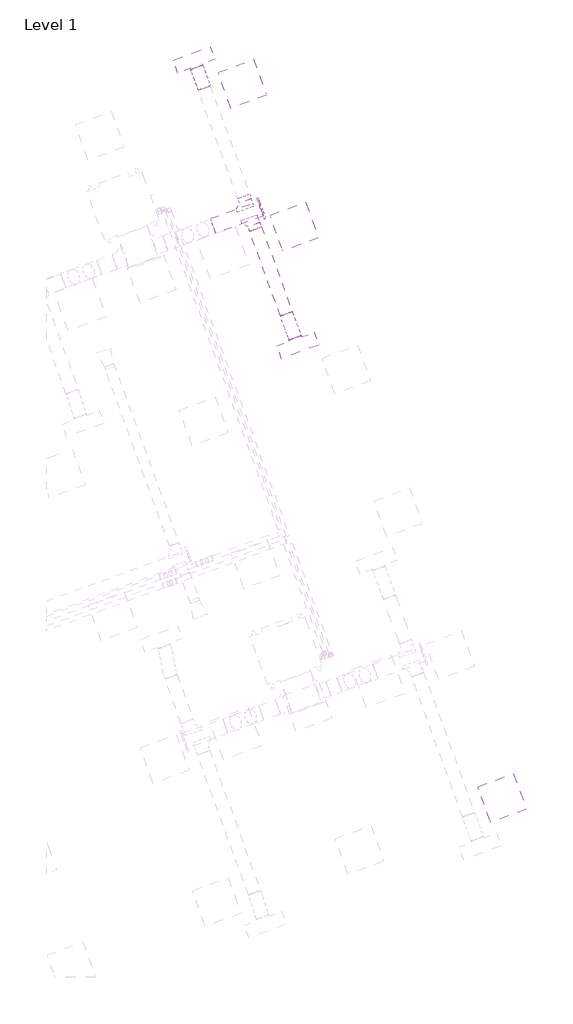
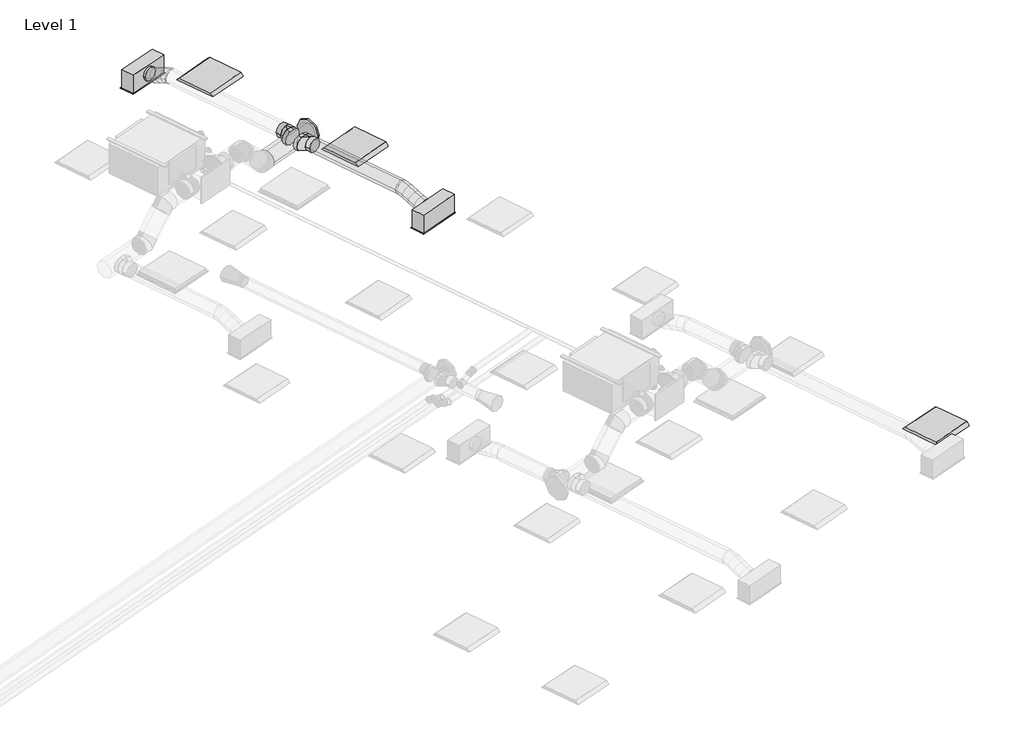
# One storey, part 30 of 30: 4 duct segments, 3 duct fittings, 3 light fixtures, 2 air terminals.
"""IFC4 building model written with IfcOpenShell, lengths in millimetres."""

from ifc_helpers import new_model, si_unit, point, frame, frame_2d, origin, place, context, project, spatial, circle_curve, ellipse_curve, trimmed, segment, composite_curve, outline, extrude, transform, mapped, element, save
from ifc_brep_helpers import plane_surface, cylinder_surface, advanced_brep
from components import supply_diffuser_with_plenum_linear_slot_hosted_2b730595, dw144_round_blank_end_standard_e3d0b58b, dw144_round_shoe_branch_slip_joint1_standard_2_15a2edd8, light_fixture_1c7c1157, light_fixture_b730b5ca

model = new_model("IFC4")

# Units and contexts
model_context = context("Model", 3, world=origin())
ifc_project = project(units=[si_unit("LENGTHUNIT", "METRE", prefix="MILLI")], contexts=[model_context])

# Site, building, storey
site = spatial("IfcSite", under=ifc_project)
building = spatial("IfcBuilding", under=site)
storey = spatial("IfcBuildingStorey", under=building, Name="Level 1", Elevation=3900.0)

# Air terminals
placement = place(None, origin())
supply_diffuser_with_plenum_linear_slot_hosted_shape = supply_diffuser_with_plenum_linear_slot_hosted_2b730595(model_context)
element("IfcAirTerminal", 1, ObjectType="Supply Diffuser with Plenum - Linear Slot - Hosted : 24\" x 8\"-200 In Inlet  4-Slot", at=placement, inside=storey, context=model_context, shape_type="MappedRepresentation", body=[
    mapped(supply_diffuser_with_plenum_linear_slot_hosted_shape, transform((59424.7616276, 24563.7241257, 6700.0), x_axis=(-0.9396926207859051, -0.3420201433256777, 0.0), y_axis=(-0.3420201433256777, 0.9396926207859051, 0.0), z_axis=(0.0, 0.0, -1.0))),
])
element("IfcAirTerminal", 2, ObjectType="Supply Diffuser with Plenum - Linear Slot - Hosted : 24\" x 8\"-200 In Inlet  4-Slot", at=placement, inside=storey, context=model_context, shape_type="MappedRepresentation", body=[
    mapped(supply_diffuser_with_plenum_linear_slot_hosted_shape, transform((61066.4583156, 20053.199546, 6700.0), x_axis=(0.939692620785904, 0.342020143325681, 0.0), y_axis=(0.342020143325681, -0.939692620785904, 0.0), z_axis=(0.0, 0.0, -1.0))),
])

# Duct fittings
dw144_round_blank_end_standard_shape = dw144_round_blank_end_standard_e3d0b58b(model_context)
element("IfcDuctFitting", 3, ObjectType="DW144 Round Blank End : Standard", at=placement, inside=storey, context=model_context, shape_type="MappedRepresentation", body=[
    mapped(dw144_round_blank_end_standard_shape, transform((60480.0687344, 22212.6690304, 6972.2088531), x_axis=(0.9396926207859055, 0.3420201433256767, 0.0), y_axis=(-0.3420201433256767, 0.9396926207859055, 0.0), z_axis=(0.0, 0.0, 1.0))),
])
dw144_round_shoe_branch_slip_joint1_standard_2_shape = dw144_round_shoe_branch_slip_joint1_standard_2_15a2edd8(model_context)
element("IfcDuctFitting", 4, ObjectType="DW144 Round Shoe Branch - Slip Joint1 : Standard 2", at=placement, inside=storey, context=model_context, shape_type="MappedRepresentation", body=[
    mapped(dw144_round_shoe_branch_slip_joint1_standard_2_shape, transform((60261.0711331, 22265.9826437, 6972.2088531), x_axis=(-0.3420201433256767, 0.9396926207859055, 0.0), y_axis=(0.9396926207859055, 0.3420201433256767, 0.0), z_axis=(0.0, 0.0, -1.0))),
])
element("IfcDuctFitting", 5, ObjectType="DW144 Round Shoe Branch - Slip Joint1 : Standard 2", at=placement, inside=storey, context=model_context, shape_type="MappedRepresentation", body=[
    mapped(dw144_round_shoe_branch_slip_joint1_standard_2_shape, transform((60346.5761689, 22031.0594885, 6972.2088531), x_axis=(0.3420201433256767, -0.9396926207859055, 0.0), y_axis=(0.9396926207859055, 0.3420201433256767, 0.0), z_axis=(0.0, 0.0, 1.0))),
])

# Duct segments
element("IfcDuctSegment", 6, ObjectType="DW144 Segmented Bend / Shoe Branch", at=placement, inside=storey, context=model_context, shape_type="SweptSolid", body=[
    extrude(outline(composite_curve([segment(trimmed(circle_curve(frame_2d((0.0, -125.0)), 125.0), [point((-125.0, -125.0))], [point((0.0, 0.0))], False, "CARTESIAN"), True, "CONTINUOUS"), segment(trimmed(circle_curve(frame_2d((0.0, -125.0)), 125.0), [point((0.0, 0.0))], [point((125.0, -125.0))], False, "CARTESIAN"), True, "CONTINUOUS"), segment(trimmed(circle_curve(frame_2d((0.0, -125.0)), 125.0), [point((125.0, -125.0))], [point((0.0, -250.0))], False, "CARTESIAN"), True, "CONTINUOUS"), segment(trimmed(circle_curve(frame_2d((0.0, -125.0)), 125.0), [point((0.0, -250.0))], [point((-125.0, -125.0))], False, "CARTESIAN"), True, "CONTINUOUS")], self_intersect=False)), frame((59729.4269771, 21939.4577742, 6847.2088531), z_axis=(0.9396926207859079, 0.3420201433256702, 0.0), x_axis=(0.3420201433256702, -0.9396926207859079, 0.0)), (0.0, 0.0, 1.0), 798.8162732),
])
element("IfcDuctSegment", 7, ObjectType="DW144 Segmented Bend / Shoe Branch", at=placement, inside=storey, context=model_context, shape_type="SweptSolid", body=[
    extrude(outline(composite_curve([segment(trimmed(circle_curve(frame_2d((0.0, -100.0)), 100.0), [point((-99.9999999, -100.0))], [point((0.0, 0.0))], False, "CARTESIAN"), True, "CONTINUOUS"), segment(trimmed(circle_curve(frame_2d((0.0, -100.0)), 100.0), [point((0.0, 0.0))], [point((100.0, -100.0))], False, "CARTESIAN"), True, "CONTINUOUS"), segment(trimmed(circle_curve(frame_2d((0.0, -100.0)), 100.0), [point((100.0, -100.0))], [point((0.0, -200.0))], False, "CARTESIAN"), True, "CONTINUOUS"), segment(trimmed(circle_curve(frame_2d((0.0, -100.0)), 100.0), [point((0.0, -200.0))], [point((-99.9999999, -100.0))], False, "CARTESIAN"), True, "CONTINUOUS")], self_intersect=False)), frame((60884.6068274, 20552.8324034, 6872.2088531), z_axis=(-0.3420201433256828, 0.9396926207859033, 0.0), x_axis=(0.9396926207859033, 0.3420201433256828, 0.0)), (0.0, 0.0, 1.0), 1423.0964067),
])
element("IfcDuctSegment", 8, ObjectType="Flex - Round", at=placement, inside=storey, context=model_context, shape_type="AdvancedBrep", body=[
    advanced_brep(
    [(59494.3812221, 24080.0654218, 6972.2088531), (59588.3504842, 24114.2674361, 6872.2088531), (59682.3197463, 24148.4694505, 6972.2088531), (59588.3504842, 24114.2674361, 7072.2088531), (59487.5004936, 24098.970068, 6972.2088531), (59585.9217049, 24120.9404524, 6872.2088531), (59675.4390178, 24167.3740967, 6972.2088531), (59577.0178065, 24145.4037123, 7072.2088531), (59374.2289237, 24410.1811486, 6854.4), (59468.1981858, 24444.3831629, 6954.4), (59562.1674479, 24478.5851772, 6854.4), (59468.1981858, 24444.3831629, 6754.4), (59463.7266331, 24164.2882131, 6953.8012198), (59569.4536569, 24166.1860426, 6859.4579669), (59651.6651572, 24232.6922417, 6953.8012198), (59545.9381335, 24230.7944122, 7048.1444727), (59434.3050729, 24245.1232852, 6913.3044266), (59542.8419968, 24239.3009778, 6822.8288116), (59622.2435971, 24313.5273139, 6913.3044266), (59513.7066733, 24319.3496213, 7003.7800415), (59404.8835128, 24325.9583573, 6872.8076333), (59510.6105366, 24327.8561869, 6778.4643804), (59592.822037, 24394.362386, 6872.8076333), (59487.0950132, 24392.4645564, 6967.1508862), (59381.1096523, 24391.2765023, 6854.4), (59479.5308635, 24413.2468867, 6754.4), (59569.0481764, 24459.680531, 6854.4), (59470.6269651, 24437.7101466, 6954.4)],
    [
        (0, 1, circle_curve(frame((59588.3504842, 24114.2674361, 6972.2088531), z_axis=(0.3420201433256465, -0.9396926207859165, 0.0), x_axis=(-0.9396926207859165, -0.3420201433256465, 0.0)), 100.0)),
        (1, 2, circle_curve(frame((59588.3504842, 24114.2674361, 6972.2088531), z_axis=(0.3420201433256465, -0.9396926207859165, 0.0), x_axis=(-0.9396926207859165, -0.3420201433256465, 0.0)), 100.0)),
        (2, 3, circle_curve(frame((59588.3504842, 24114.2674361, 6972.2088531), z_axis=(0.3420201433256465, -0.9396926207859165, 0.0), x_axis=(-0.9396926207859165, -0.3420201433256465, 0.0)), 100.0)),
        (3, 0, circle_curve(frame((59588.3504842, 24114.2674361, 6972.2088531), z_axis=(0.3420201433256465, -0.9396926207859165, 0.0), x_axis=(-0.9396926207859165, -0.3420201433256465, 0.0)), 100.0)),
        (0, 4),
        (4, 5, ellipse_curve(frame((59581.4697557, 24133.1720824, 6972.2088531), z_axis=(0.33915898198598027, -0.931831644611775, 0.12907738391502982), x_axis=(0.044147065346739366, -0.12129306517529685, -0.9916345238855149)), 100.8436048, 100.0)),
        (5, 1),
        (5, 6, ellipse_curve(frame((59581.4697557, 24133.1720824, 6972.2088531), z_axis=(0.33915898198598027, -0.931831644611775, 0.12907738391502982), x_axis=(0.044147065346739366, -0.12129306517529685, -0.9916345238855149)), 100.8436048, 100.0)),
        (6, 2),
        (6, 7, ellipse_curve(frame((59581.4697557, 24133.1720824, 6972.2088531), z_axis=(0.33915898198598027, -0.931831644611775, 0.12907738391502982), x_axis=(0.044147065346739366, -0.12129306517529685, -0.9916345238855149)), 100.8436048, 100.0)),
        (7, 3),
        (7, 4, ellipse_curve(frame((59581.4697557, 24133.1720824, 6972.2088531), z_axis=(0.33915898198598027, -0.931831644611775, 0.12907738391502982), x_axis=(0.044147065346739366, -0.12129306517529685, -0.9916345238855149)), 100.8436048, 100.0)),
        (8, 9, circle_curve(frame((59468.1981858, 24444.3831629, 6854.4), z_axis=(-0.34202014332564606, 0.9396926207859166, 0.0), x_axis=(-0.9396926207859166, -0.34202014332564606, 0.0)), 100.0)),
        (9, 10, circle_curve(frame((59468.1981858, 24444.3831629, 6854.4), z_axis=(-0.34202014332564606, 0.9396926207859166, 0.0), x_axis=(-0.9396926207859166, -0.34202014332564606, 0.0)), 100.0)),
        (10, 11, circle_curve(frame((59468.1981858, 24444.3831629, 6854.4), z_axis=(-0.34202014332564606, 0.9396926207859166, 0.0), x_axis=(-0.9396926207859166, -0.34202014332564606, 0.0)), 100.0)),
        (11, 8, circle_curve(frame((59468.1981858, 24444.3831629, 6854.4), z_axis=(-0.34202014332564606, 0.9396926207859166, 0.0), x_axis=(-0.9396926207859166, -0.34202014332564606, 0.0)), 100.0)),
        (4, 12),
        (12, 13, ellipse_curve(frame((59557.6958952, 24198.4902274, 6953.8012198), z_axis=(0.32135080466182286, -0.8829040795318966, 0.34236537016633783), x_axis=(0.11709585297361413, -0.3217182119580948, -0.9395668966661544)), 100.411427, 100.0)),
        (13, 5),
        (13, 14, ellipse_curve(frame((59557.6958952, 24198.4902274, 6953.8012198), z_axis=(0.32135080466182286, -0.8829040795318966, 0.34236537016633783), x_axis=(0.11709585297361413, -0.3217182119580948, -0.9395668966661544)), 100.411427, 100.0)),
        (14, 6),
        (14, 15, ellipse_curve(frame((59557.6958952, 24198.4902274, 6953.8012198), z_axis=(0.32135080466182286, -0.8829040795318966, 0.34236537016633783), x_axis=(0.11709585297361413, -0.3217182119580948, -0.9395668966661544)), 100.411427, 100.0)),
        (15, 7),
        (15, 12, ellipse_curve(frame((59557.6958952, 24198.4902274, 6953.8012198), z_axis=(0.32135080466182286, -0.8829040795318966, 0.34236537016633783), x_axis=(0.11709585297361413, -0.3217182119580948, -0.9395668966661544)), 100.411427, 100.0)),
        (12, 16),
        (16, 17, circle_curve(frame((59528.274335, 24279.3252995, 6913.3044266), z_axis=(0.30944482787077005, -0.8501926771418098, 0.4259299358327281), x_axis=(-0.9396926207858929, -0.34202014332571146, 0.0)), 100.0)),
        (17, 13),
        (17, 18, circle_curve(frame((59528.274335, 24279.3252995, 6913.3044266), z_axis=(0.30944482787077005, -0.8501926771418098, 0.4259299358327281), x_axis=(-0.9396926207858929, -0.34202014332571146, 0.0)), 100.0)),
        (18, 14),
        (18, 19, circle_curve(frame((59528.274335, 24279.3252995, 6913.3044266), z_axis=(0.30944482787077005, -0.8501926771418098, 0.4259299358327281), x_axis=(-0.9396926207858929, -0.34202014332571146, 0.0)), 100.0)),
        (19, 15),
        (19, 16, circle_curve(frame((59528.274335, 24279.3252995, 6913.3044266), z_axis=(0.30944482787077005, -0.8501926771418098, 0.4259299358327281), x_axis=(-0.9396926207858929, -0.34202014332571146, 0.0)), 100.0)),
        (16, 20),
        (20, 21, ellipse_curve(frame((59498.8527749, 24360.1603716, 6872.8076333), z_axis=(0.3213508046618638, -0.8829040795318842, 0.3423653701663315), x_axis=(-0.11709585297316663, 0.3217182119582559, 0.9395668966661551)), 100.411427, 100.0)),
        (21, 17),
        (21, 22, ellipse_curve(frame((59498.8527749, 24360.1603716, 6872.8076333), z_axis=(0.3213508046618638, -0.8829040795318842, 0.3423653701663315), x_axis=(-0.11709585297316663, 0.3217182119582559, 0.9395668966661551)), 100.411427, 100.0)),
        (22, 18),
        (22, 23, ellipse_curve(frame((59498.8527749, 24360.1603716, 6872.8076333), z_axis=(0.3213508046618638, -0.8829040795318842, 0.3423653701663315), x_axis=(-0.11709585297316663, 0.3217182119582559, 0.9395668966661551)), 100.411427, 100.0)),
        (23, 19),
        (23, 20, ellipse_curve(frame((59498.8527749, 24360.1603716, 6872.8076333), z_axis=(0.3213508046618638, -0.8829040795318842, 0.3423653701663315), x_axis=(-0.11709585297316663, 0.3217182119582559, 0.9395668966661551)), 100.411427, 100.0)),
        (20, 24),
        (24, 25, ellipse_curve(frame((59475.0789143, 24425.4785167, 6854.4), z_axis=(0.33915898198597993, -0.9318316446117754, 0.1290773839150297), x_axis=(-0.04414706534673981, 0.12129306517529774, 0.9916345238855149)), 100.8436048, 100.0)),
        (25, 21),
        (25, 26, ellipse_curve(frame((59475.0789143, 24425.4785167, 6854.4), z_axis=(0.33915898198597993, -0.9318316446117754, 0.1290773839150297), x_axis=(-0.04414706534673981, 0.12129306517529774, 0.9916345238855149)), 100.8436048, 100.0)),
        (26, 22),
        (26, 27, ellipse_curve(frame((59475.0789143, 24425.4785167, 6854.4), z_axis=(0.33915898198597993, -0.9318316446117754, 0.1290773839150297), x_axis=(-0.04414706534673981, 0.12129306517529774, 0.9916345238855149)), 100.8436048, 100.0)),
        (27, 23),
        (27, 24, ellipse_curve(frame((59475.0789143, 24425.4785167, 6854.4), z_axis=(0.33915898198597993, -0.9318316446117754, 0.1290773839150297), x_axis=(-0.04414706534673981, 0.12129306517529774, 0.9916345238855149)), 100.8436048, 100.0)),
        (24, 8),
        (11, 25),
        (10, 26),
        (9, 27),
    ],
    [
        plane_surface(frame((59588.3504842, 24114.2674361, 7072.2088531), z_axis=(0.3420201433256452, -0.939692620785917, 0.0), x_axis=(0.939692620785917, 0.3420201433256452, 0.0))),
        cylinder_surface(frame((59588.3504842, 24114.2674361, 6972.2088531), z_axis=(0.3420201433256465, -0.9396926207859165, 0.0), x_axis=(-0.9396926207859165, -0.3420201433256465, 0.0)), 100.0),
        plane_surface(frame((59468.1981858, 24444.3831629, 6954.4), z_axis=(-0.3420201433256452, 0.939692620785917, 0.0), x_axis=(0.939692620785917, 0.3420201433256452, 0.0))),
        cylinder_surface(frame((59581.4697557, 24133.1720824, 6972.2088531), z_axis=(0.3306233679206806, -0.9083802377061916, 0.2559951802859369), x_axis=(-0.9396926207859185, -0.342020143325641, 0.0)), 100.0),
        cylinder_surface(frame((59557.6958952, 24198.4902274, 6953.8012198), z_axis=(0.30944482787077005, -0.8501926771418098, 0.4259299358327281), x_axis=(-0.9396926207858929, -0.34202014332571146, 0.0)), 100.0),
        cylinder_surface(frame((59528.274335, 24279.3252995, 6913.3044266), z_axis=(0.30944482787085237, -0.8501926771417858, 0.42592993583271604), x_axis=(-0.9396926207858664, -0.3420201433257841, 0.0)), 100.0),
        cylinder_surface(frame((59498.8527749, 24360.1603716, 6872.8076333), z_axis=(0.3306233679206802, -0.9083802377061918, 0.25599518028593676), x_axis=(-0.9396926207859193, -0.34202014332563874, 0.0)), 100.0),
        cylinder_surface(frame((59475.0789143, 24425.4785167, 6854.4), z_axis=(0.34202014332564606, -0.9396926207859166, 0.0), x_axis=(-0.9396926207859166, -0.34202014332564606, 0.0)), 100.0),
    ],
    [
        (0, [[1, 2, 3, 4]]),
        (1, [[-1, 5, 6, 7]]),
        (1, [[-2, -7, 8, 9]]),
        (1, [[-3, -9, 10, 11]]),
        (1, [[-4, -11, 12, -5]]),
        (2, [[13, 14, 15, 16]]),
        (3, [[-6, 17, 18, 19]]),
        (3, [[-8, -19, 20, 21]]),
        (3, [[-10, -21, 22, 23]]),
        (3, [[-12, -23, 24, -17]]),
        (4, [[-18, 25, 26, 27]]),
        (4, [[-20, -27, 28, 29]]),
        (4, [[-22, -29, 30, 31]]),
        (4, [[-24, -31, 32, -25]]),
        (5, [[-26, 33, 34, 35]]),
        (5, [[-28, -35, 36, 37]]),
        (5, [[-30, -37, 38, 39]]),
        (5, [[-32, -39, 40, -33]]),
        (6, [[-34, 41, 42, 43]]),
        (6, [[-36, -43, 44, 45]]),
        (6, [[-38, -45, 46, 47]]),
        (6, [[-40, -47, 48, -41]]),
        (7, [[-42, 49, -16, 50]]),
        (7, [[-44, -50, -15, 51]]),
        (7, [[-46, -51, -14, 52]]),
        (7, [[-48, -52, -13, -49]]),
    ],
),
])
element("IfcDuctSegment", 9, ObjectType="Flex - Round", at=placement, inside=storey, context=model_context, shape_type="AdvancedBrep", body=[
    advanced_brep(
    [(60978.5760895, 20587.0344177, 6972.2088531), (60884.6068274, 20552.8324034, 6872.2088531), (60790.6375654, 20518.630389, 6972.2088531), (60884.6068274, 20552.8324034, 7072.2088531), (60984.6073828, 20570.4635756, 6972.2088531), (60886.98199, 20546.306698, 6872.2088531), (60796.6688586, 20502.0595469, 6972.2088531), (60894.2942515, 20526.2164246, 7072.2088531), (61116.9910195, 20206.7425231, 6854.4), (61023.0217574, 20172.5405088, 6954.4), (60929.0524953, 20138.3384945, 6854.4), (61023.0217574, 20172.5405088, 6754.4), (61013.7184591, 20490.4815508, 6953.8012198), (60909.6174608, 20484.1162529, 6857.8959008), (60825.7799349, 20422.0775221, 6953.8012198), (60929.8809332, 20428.44282, 7049.7065388), (61047.7835545, 20396.8884704, 6913.3044266), (60940.9320403, 20398.0801528, 6820.6689376), (60859.8450303, 20328.4844418, 6913.3044266), (60966.6965445, 20327.2927594, 7005.9399155), (61081.8486499, 20303.2953901, 6872.8076333), (60977.7476516, 20296.9300922, 6776.9023143), (60893.9101257, 20234.8913614, 6872.8076333), (60998.011124, 20241.2566593, 6968.7129523), (61110.9597262, 20223.3133653, 6854.4), (61013.3343333, 20199.1564876, 6754.4), (60923.021202, 20154.9093366, 6854.4), (61020.6465948, 20179.0662142, 6954.4)],
    [
        (0, 1, circle_curve(frame((60884.6068274, 20552.8324034, 6972.2088531), z_axis=(-0.34202014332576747, 0.9396926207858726, 0.0), x_axis=(0.9396926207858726, 0.34202014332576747, 0.0)), 100.0)),
        (1, 2, circle_curve(frame((60884.6068274, 20552.8324034, 6972.2088531), z_axis=(-0.34202014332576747, 0.9396926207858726, 0.0), x_axis=(0.9396926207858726, 0.34202014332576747, 0.0)), 100.0)),
        (2, 3, circle_curve(frame((60884.6068274, 20552.8324034, 6972.2088531), z_axis=(-0.34202014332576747, 0.9396926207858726, 0.0), x_axis=(0.9396926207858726, 0.34202014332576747, 0.0)), 100.0)),
        (3, 0, circle_curve(frame((60884.6068274, 20552.8324034, 6972.2088531), z_axis=(-0.34202014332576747, 0.9396926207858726, 0.0), x_axis=(0.9396926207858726, 0.34202014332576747, 0.0)), 100.0)),
        (0, 4),
        (4, 5, ellipse_curve(frame((60890.6381207, 20536.2615613, 6972.2088531), z_axis=(-0.3400825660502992, 0.9343691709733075, 0.10629252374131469), x_axis=(-0.03635418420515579, 0.09988230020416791, -0.9943349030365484)), 100.5697373, 100.0)),
        (5, 1),
        (5, 6, ellipse_curve(frame((60890.6381207, 20536.2615613, 6972.2088531), z_axis=(-0.3400825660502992, 0.9343691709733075, 0.10629252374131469), x_axis=(-0.03635418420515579, 0.09988230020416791, -0.9943349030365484)), 100.5697373, 100.0)),
        (6, 2),
        (6, 7, ellipse_curve(frame((60890.6381207, 20536.2615613, 6972.2088531), z_axis=(-0.3400825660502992, 0.9343691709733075, 0.10629252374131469), x_axis=(-0.03635418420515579, 0.09988230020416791, -0.9943349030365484)), 100.5697373, 100.0)),
        (7, 3),
        (7, 4, ellipse_curve(frame((60890.6381207, 20536.2615613, 6972.2088531), z_axis=(-0.3400825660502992, 0.9343691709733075, 0.10629252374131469), x_axis=(-0.03635418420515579, 0.09988230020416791, -0.9943349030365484)), 100.5697373, 100.0)),
        (8, 9, circle_curve(frame((61023.0217574, 20172.5405088, 6854.4), z_axis=(0.3420201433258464, -0.9396926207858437, 0.0), x_axis=(0.9396926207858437, 0.3420201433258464, 0.0)), 100.0)),
        (9, 10, circle_curve(frame((61023.0217574, 20172.5405088, 6854.4), z_axis=(0.3420201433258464, -0.9396926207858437, 0.0), x_axis=(0.9396926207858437, 0.3420201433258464, 0.0)), 100.0)),
        (10, 11, circle_curve(frame((61023.0217574, 20172.5405088, 6854.4), z_axis=(0.3420201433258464, -0.9396926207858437, 0.0), x_axis=(0.9396926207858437, 0.3420201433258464, 0.0)), 100.0)),
        (11, 8, circle_curve(frame((61023.0217574, 20172.5405088, 6854.4), z_axis=(0.3420201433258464, -0.9396926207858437, 0.0), x_axis=(0.9396926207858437, 0.3420201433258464, 0.0)), 100.0)),
        (4, 12),
        (12, 13, ellipse_curve(frame((60919.749197, 20456.2795364, 6953.8012198), z_axis=(-0.32678640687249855, 0.8978382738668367, 0.2951221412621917), x_axis=(-0.10093771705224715, 0.277324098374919, -0.955459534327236)), 100.3761181, 100.0)),
        (13, 5),
        (13, 14, ellipse_curve(frame((60919.749197, 20456.2795364, 6953.8012198), z_axis=(-0.32678640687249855, 0.8978382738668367, 0.2951221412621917), x_axis=(-0.10093771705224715, 0.277324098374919, -0.955459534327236)), 100.3761181, 100.0)),
        (14, 6),
        (14, 15, ellipse_curve(frame((60919.749197, 20456.2795364, 6953.8012198), z_axis=(-0.32678640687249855, 0.8978382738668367, 0.2951221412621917), x_axis=(-0.10093771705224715, 0.277324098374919, -0.955459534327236)), 100.3761181, 100.0)),
        (15, 7),
        (15, 12, ellipse_curve(frame((60919.749197, 20456.2795364, 6953.8012198), z_axis=(-0.32678640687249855, 0.8978382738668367, 0.2951221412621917), x_axis=(-0.10093771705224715, 0.277324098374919, -0.955459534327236)), 100.3761181, 100.0)),
        (12, 16),
        (16, 17, circle_curve(frame((60953.8142924, 20362.6864561, 6913.3044266), z_axis=(-0.31683203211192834, 0.8704888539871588, 0.3766518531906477), x_axis=(0.9396926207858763, 0.3420201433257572, 0.0)), 100.0)),
        (17, 13),
        (17, 18, circle_curve(frame((60953.8142924, 20362.6864561, 6913.3044266), z_axis=(-0.31683203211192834, 0.8704888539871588, 0.3766518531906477), x_axis=(0.9396926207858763, 0.3420201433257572, 0.0)), 100.0)),
        (18, 14),
        (18, 19, circle_curve(frame((60953.8142924, 20362.6864561, 6913.3044266), z_axis=(-0.31683203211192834, 0.8704888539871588, 0.3766518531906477), x_axis=(0.9396926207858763, 0.3420201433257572, 0.0)), 100.0)),
        (19, 15),
        (19, 16, circle_curve(frame((60953.8142924, 20362.6864561, 6913.3044266), z_axis=(-0.31683203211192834, 0.8704888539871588, 0.3766518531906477), x_axis=(0.9396926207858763, 0.3420201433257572, 0.0)), 100.0)),
        (16, 20),
        (20, 21, ellipse_curve(frame((60987.8793878, 20269.0933757, 6872.8076333), z_axis=(-0.3267864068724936, 0.8978382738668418, 0.2951221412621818), x_axis=(0.10093771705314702, -0.27732409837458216, 0.9554595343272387)), 100.3761181, 100.0)),
        (21, 17),
        (21, 22, ellipse_curve(frame((60987.8793878, 20269.0933757, 6872.8076333), z_axis=(-0.3267864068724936, 0.8978382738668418, 0.2951221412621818), x_axis=(0.10093771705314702, -0.27732409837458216, 0.9554595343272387)), 100.3761181, 100.0)),
        (22, 18),
        (22, 23, ellipse_curve(frame((60987.8793878, 20269.0933757, 6872.8076333), z_axis=(-0.3267864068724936, 0.8978382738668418, 0.2951221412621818), x_axis=(0.10093771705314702, -0.27732409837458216, 0.9554595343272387)), 100.3761181, 100.0)),
        (23, 19),
        (23, 20, ellipse_curve(frame((60987.8793878, 20269.0933757, 6872.8076333), z_axis=(-0.3267864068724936, 0.8978382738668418, 0.2951221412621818), x_axis=(0.10093771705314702, -0.27732409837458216, 0.9554595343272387)), 100.3761181, 100.0)),
        (20, 24),
        (24, 25, ellipse_curve(frame((61016.9904641, 20189.1113509, 6854.4), z_axis=(-0.34008256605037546, 0.9343691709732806, 0.10629252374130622), x_axis=(0.03635418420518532, -0.09988230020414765, 0.9943349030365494)), 100.5697373, 100.0)),
        (25, 21),
        (25, 26, ellipse_curve(frame((61016.9904641, 20189.1113509, 6854.4), z_axis=(-0.34008256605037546, 0.9343691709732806, 0.10629252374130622), x_axis=(0.03635418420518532, -0.09988230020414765, 0.9943349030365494)), 100.5697373, 100.0)),
        (26, 22),
        (26, 27, ellipse_curve(frame((61016.9904641, 20189.1113509, 6854.4), z_axis=(-0.34008256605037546, 0.9343691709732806, 0.10629252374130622), x_axis=(0.03635418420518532, -0.09988230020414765, 0.9943349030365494)), 100.5697373, 100.0)),
        (27, 23),
        (27, 24, ellipse_curve(frame((61016.9904641, 20189.1113509, 6854.4), z_axis=(-0.34008256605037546, 0.9343691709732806, 0.10629252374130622), x_axis=(0.03635418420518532, -0.09988230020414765, 0.9943349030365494)), 100.5697373, 100.0)),
        (24, 8),
        (11, 25),
        (10, 26),
        (9, 27),
    ],
    [
        plane_surface(frame((60884.6068274, 20552.8324034, 6872.2088531), z_axis=(-0.3420201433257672, 0.9396926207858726, 0.0), x_axis=(0.9396926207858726, 0.3420201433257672, 0.0))),
        cylinder_surface(frame((60884.6068274, 20552.8324034, 6972.2088531), z_axis=(-0.34202014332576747, 0.9396926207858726, 0.0), x_axis=(0.9396926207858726, 0.34202014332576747, 0.0)), 100.0),
        plane_surface(frame((61023.0217574, 20172.5405088, 6754.4), z_axis=(0.3420201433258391, -0.9396926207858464, 0.0), x_axis=(0.9396926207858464, 0.3420201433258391, 0.0))),
        cylinder_surface(frame((60890.6381207, 20536.2615613, 6972.2088531), z_axis=(-0.33429178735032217, 0.9184591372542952, 0.21138073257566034), x_axis=(0.9396926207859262, 0.34202014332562, 0.0)), 100.0),
        cylinder_surface(frame((60919.749197, 20456.2795364, 6953.8012198), z_axis=(-0.31683203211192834, 0.8704888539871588, 0.3766518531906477), x_axis=(0.9396926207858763, 0.3420201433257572, 0.0)), 100.0),
        cylinder_surface(frame((60953.8142924, 20362.6864561, 6913.3044266), z_axis=(-0.31683203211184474, 0.8704888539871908, 0.3766518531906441), x_axis=(0.9396926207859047, 0.3420201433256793, 0.0)), 100.0),
        cylinder_surface(frame((60987.8793878, 20269.0933757, 6872.8076333), z_axis=(-0.3342917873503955, 0.9184591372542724, 0.21138073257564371), x_axis=(0.9396926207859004, 0.34202014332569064, 0.0)), 100.0),
        cylinder_surface(frame((61016.9904641, 20189.1113509, 6854.4), z_axis=(-0.3420201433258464, 0.9396926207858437, 0.0), x_axis=(0.9396926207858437, 0.3420201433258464, 0.0)), 100.0),
    ],
    [
        (0, [[1, 2, 3, 4]]),
        (1, [[-1, 5, 6, 7]]),
        (1, [[-2, -7, 8, 9]]),
        (1, [[-3, -9, 10, 11]]),
        (1, [[-4, -11, 12, -5]]),
        (2, [[13, 14, 15, 16]]),
        (3, [[-6, 17, 18, 19]]),
        (3, [[-8, -19, 20, 21]]),
        (3, [[-10, -21, 22, 23]]),
        (3, [[-12, -23, 24, -17]]),
        (4, [[-18, 25, 26, 27]]),
        (4, [[-20, -27, 28, 29]]),
        (4, [[-22, -29, 30, 31]]),
        (4, [[-24, -31, 32, -25]]),
        (5, [[-26, 33, 34, 35]]),
        (5, [[-28, -35, 36, 37]]),
        (5, [[-30, -37, 38, 39]]),
        (5, [[-32, -39, 40, -33]]),
        (6, [[-34, 41, 42, 43]]),
        (6, [[-36, -43, 44, 45]]),
        (6, [[-38, -45, 46, 47]]),
        (6, [[-40, -47, 48, -41]]),
        (7, [[-42, 49, -16, 50]]),
        (7, [[-44, -50, -15, 51]]),
        (7, [[-46, -51, -14, 52]]),
        (7, [[-48, -52, -13, -49]]),
    ],
),
])

# Light fixtures
light_fixture_shape = light_fixture_1c7c1157(model_context)
element("IfcLightFixture", 10, ObjectType="ELEKTRA Plain Recessed Lighting Fixture : 24\" x 24\" - 230", at=placement, inside=storey, context=model_context, shape_type="MappedRepresentation", body=[
    mapped(light_fixture_shape, transform((60009.5981994, 23799.8316611, 6700.0), x_axis=(0.9396926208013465, 0.342020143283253, 0.0), y_axis=(0.342020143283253, -0.9396926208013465, 0.0), z_axis=(0.0, 0.0, -1.0))),
])
light_fixture_2_shape = light_fixture_b730b5ca(model_context)
element("IfcLightFixture", 11, ObjectType="ELEKTRA EM Recessed Lighting Fixture : 24\" x 24\" - 230", at=placement, inside=storey, context=model_context, shape_type="MappedRepresentation", body=[
    mapped(light_fixture_2_shape, transform((60830.4465432, 21544.5693712, 6700.0), x_axis=(0.9396926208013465, 0.342020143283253, 0.0), y_axis=(0.342020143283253, -0.9396926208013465, 0.0), z_axis=(0.0, 0.0, -1.0))),
])
element("IfcLightFixture", 12, ObjectType="ELEKTRA EM Recessed Lighting Fixture : 24\" x 24\" - 230", at=placement, inside=storey, context=model_context, shape_type="MappedRepresentation", body=[
    mapped(light_fixture_2_shape, transform((64113.8399188, 12523.5202115, 6700.0), x_axis=(0.9396926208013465, 0.342020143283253, 0.0), y_axis=(0.342020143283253, -0.9396926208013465, 0.0), z_axis=(0.0, 0.0, -1.0))),
])

save(model, "model.ifc")
